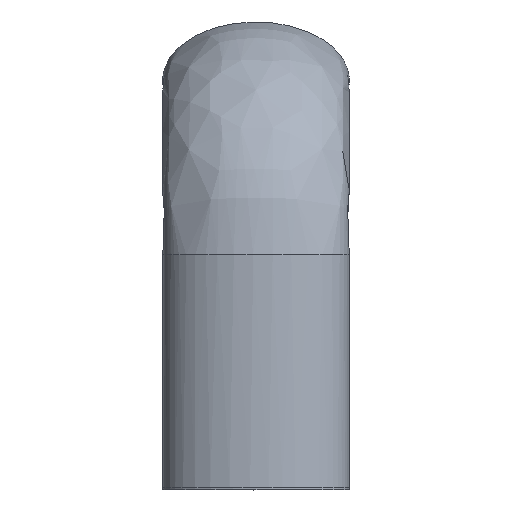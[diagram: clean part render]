
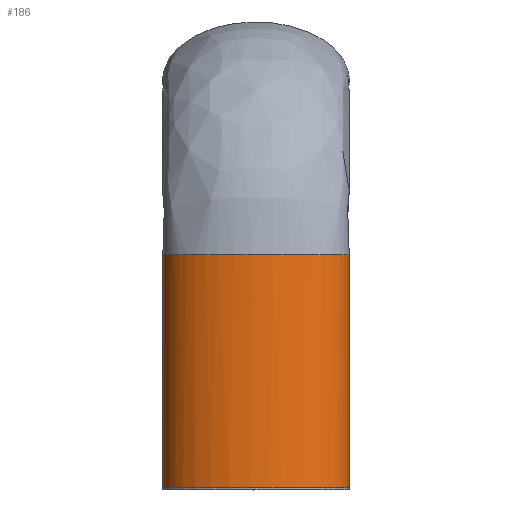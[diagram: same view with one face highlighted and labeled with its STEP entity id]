
A CAD part, top view. The second image highlights one B-rep face of the part: STEP entity #186.
In plain terms, the highlighted free-form (B-spline) face has degree [1, 2] with [2, 9] control points.
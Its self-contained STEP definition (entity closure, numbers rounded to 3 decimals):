
#19=B_SPLINE_CURVE_WITH_KNOTS('',1,(#431,#432),.UNSPECIFIED.,.F.,.F.,(2,
2),(-2.5,0.),.UNSPECIFIED.);
#28=ELLIPSE('',#212,10.,6.25);
#29=ELLIPSE('',#213,10.,6.25);
#30=ELLIPSE('',#215,10.,6.25);
#31=ELLIPSE('',#216,10.,6.25);
#36=(
BOUNDED_SURFACE()
B_SPLINE_SURFACE(1,2,((#412,#413,#414,#415,#416,#417,#418,#419,#420),(#421,
#422,#423,#424,#425,#426,#427,#428,#429)),.UNSPECIFIED.,.F.,.T.,.F.)
B_SPLINE_SURFACE_WITH_KNOTS((2,2),(3,2,2,2,3),(0.,2.5),(-3.142,
-1.571,0.,1.571,3.142),.UNSPECIFIED.)
GEOMETRIC_REPRESENTATION_ITEM()
RATIONAL_B_SPLINE_SURFACE(((1.,0.707,1.,0.707,1.,
0.707,1.,0.707,1.),(1.,0.707,1.,0.707,
1.,0.707,1.,0.707,1.)))
REPRESENTATION_ITEM('')
SURFACE()
);
#55=FACE_OUTER_BOUND('',#72,.T.);
#72=EDGE_LOOP('',(#160,#161,#162,#163,#164,#165));
#99=VERTEX_POINT('',#407);
#100=VERTEX_POINT('',#408);
#101=VERTEX_POINT('',#430);
#102=VERTEX_POINT('',#433);
#120=EDGE_CURVE('',#99,#100,#28,.T.);
#121=EDGE_CURVE('',#100,#99,#29,.T.);
#123=EDGE_CURVE('',#100,#101,#19,.T.);
#124=EDGE_CURVE('',#102,#101,#30,.T.);
#125=EDGE_CURVE('',#101,#102,#31,.T.);
#160=ORIENTED_EDGE('',*,*,#120,.F.);
#161=ORIENTED_EDGE('',*,*,#121,.F.);
#162=ORIENTED_EDGE('',*,*,#123,.T.);
#163=ORIENTED_EDGE('',*,*,#124,.F.);
#164=ORIENTED_EDGE('',*,*,#125,.F.);
#165=ORIENTED_EDGE('',*,*,#123,.F.);
#186=ADVANCED_FACE('',(#55),#36,.F.);
#212=AXIS2_PLACEMENT_3D('',#409,#263,#264);
#213=AXIS2_PLACEMENT_3D('',#410,#265,#266);
#215=AXIS2_PLACEMENT_3D('',#434,#269,#270);
#216=AXIS2_PLACEMENT_3D('',#435,#271,#272);
#263=DIRECTION('center_axis',(0.,1.,0.));
#264=DIRECTION('ref_axis',(-1.,0.,0.));
#265=DIRECTION('center_axis',(0.,1.,0.));
#266=DIRECTION('ref_axis',(-1.,0.,0.));
#269=DIRECTION('center_axis',(0.,-1.,0.));
#270=DIRECTION('ref_axis',(-1.,0.,0.));
#271=DIRECTION('center_axis',(0.,-1.,0.));
#272=DIRECTION('ref_axis',(-1.,0.,0.));
#407=CARTESIAN_POINT('',(0.,25.,-6.25));
#408=CARTESIAN_POINT('',(10.,25.,0.));
#409=CARTESIAN_POINT('Origin',(0.,25.,0.));
#410=CARTESIAN_POINT('Origin',(0.,25.,0.));
#412=CARTESIAN_POINT('Ctrl Pts',(10.,0.,0.));
#413=CARTESIAN_POINT('Ctrl Pts',(10.,0.,-6.25));
#414=CARTESIAN_POINT('Ctrl Pts',(0.,0.,-6.25));
#415=CARTESIAN_POINT('Ctrl Pts',(-10.,0.,-6.25));
#416=CARTESIAN_POINT('Ctrl Pts',(-10.,0.,0.));
#417=CARTESIAN_POINT('Ctrl Pts',(-10.,0.,6.25));
#418=CARTESIAN_POINT('Ctrl Pts',(0.,0.,6.25));
#419=CARTESIAN_POINT('Ctrl Pts',(10.,0.,6.25));
#420=CARTESIAN_POINT('Ctrl Pts',(10.,0.,0.));
#421=CARTESIAN_POINT('Ctrl Pts',(10.,25.,0.));
#422=CARTESIAN_POINT('Ctrl Pts',(10.,25.,-6.25));
#423=CARTESIAN_POINT('Ctrl Pts',(0.,25.,-6.25));
#424=CARTESIAN_POINT('Ctrl Pts',(-10.,25.,-6.25));
#425=CARTESIAN_POINT('Ctrl Pts',(-10.,25.,0.));
#426=CARTESIAN_POINT('Ctrl Pts',(-10.,25.,6.25));
#427=CARTESIAN_POINT('Ctrl Pts',(0.,25.,6.25));
#428=CARTESIAN_POINT('Ctrl Pts',(10.,25.,6.25));
#429=CARTESIAN_POINT('Ctrl Pts',(10.,25.,0.));
#430=CARTESIAN_POINT('',(10.,0.,0.));
#431=CARTESIAN_POINT('Ctrl Pts',(10.,25.,0.));
#432=CARTESIAN_POINT('Ctrl Pts',(10.,0.,0.));
#433=CARTESIAN_POINT('',(0.,0.,-6.25));
#434=CARTESIAN_POINT('Origin',(0.,0.,0.));
#435=CARTESIAN_POINT('Origin',(0.,0.,0.));
